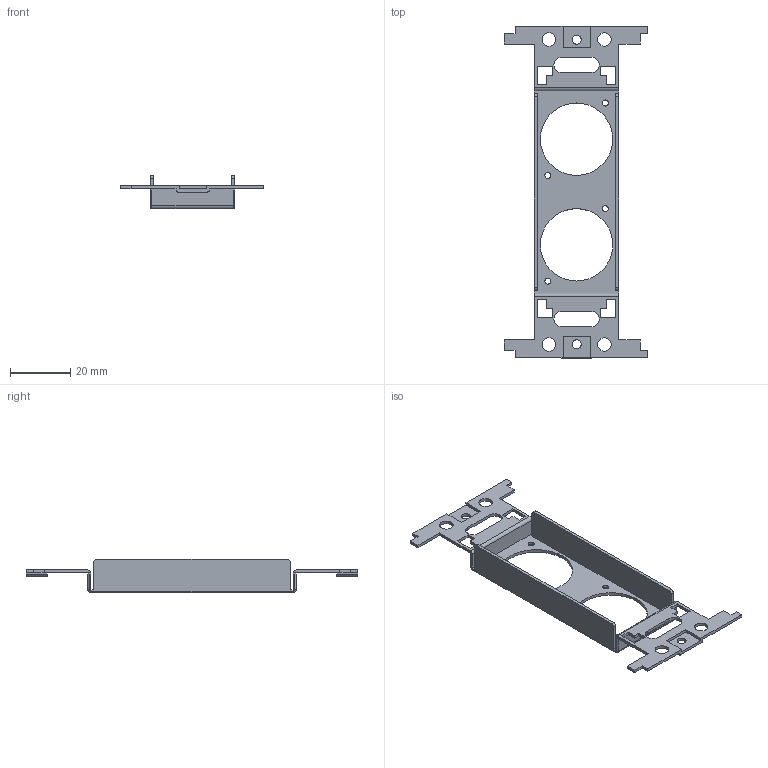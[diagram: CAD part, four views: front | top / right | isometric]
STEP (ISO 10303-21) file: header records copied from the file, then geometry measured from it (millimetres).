
FILE_DESCRIPTION(('FreeCAD Model'),'2;1');
FILE_NAME('Open CASCADE Shape Model','2026-06-22T11:02:25',(''),(''), 'Open CASCADE STEP processor 7.8','FreeCAD','Unknown');
FILE_SCHEMA(('AUTOMOTIVE_DESIGN { 1 0 10303 214 1 1 1 1 }'));
Length unit declared in the file: millimetre
Products named in the file (1): P-200791
Bounding box: 47.6 x 110 x 11 mm (x, y, z)
Volume: 3709.8 mm3; surface area: 8270.4 mm2
Topology: 1 solids, 1 shells, 122 faces, 354 edges, 232 vertices
Faces by surface type: plane 84, cylinder 34, torus 4
Full cylindrical faces by diameter (mm): 2 x4, 3 x2, 4.5 x4, 24 x2
Entity records: 4095 total; most frequent: ORIENTED_EDGE 712, CARTESIAN_POINT 710, DIRECTION 671, EDGE_CURVE 354, LINE 281, VECTOR 281, VERTEX_POINT 232, AXIS2_PLACEMENT_3D 195
